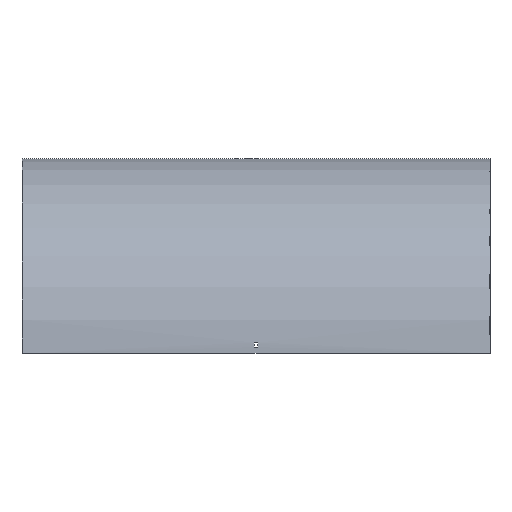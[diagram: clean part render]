
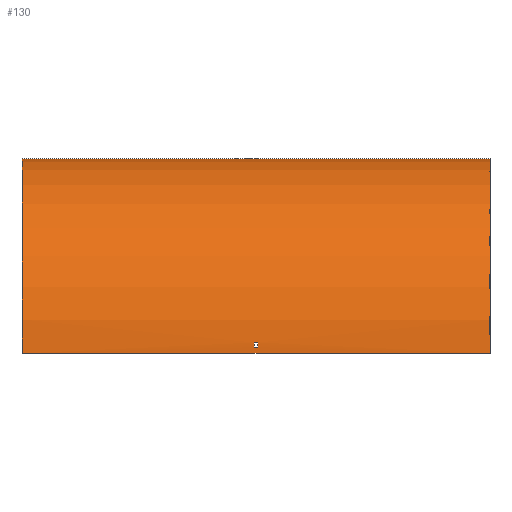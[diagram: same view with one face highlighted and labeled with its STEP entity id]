
A CAD part, top view. The second image highlights one B-rep face of the part: STEP entity #130.
In plain terms, the highlighted cylindrical face has radius 376.5 mm (diameter 753 mm), a partial arc.
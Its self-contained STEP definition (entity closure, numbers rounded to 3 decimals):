
#5 = VERTEX_POINT ( 'NONE', #152 ) ;
#7 = AXIS2_PLACEMENT_3D ( 'NONE', #172, #231, #122 ) ;
#11 = ORIENTED_EDGE ( 'NONE', *, *, #475, .T. ) ;
#19 = CARTESIAN_POINT ( 'NONE',  ( 451.5, -0.586, 21. ) ) ;
#21 = VECTOR ( 'NONE', #290, 1000. ) ;
#40 = VERTEX_POINT ( 'NONE', #214 ) ;
#46 = EDGE_CURVE ( 'NONE', #153, #5, #118, .T. ) ;
#51 = VERTEX_POINT ( 'NONE', #481 ) ;
#56 = VERTEX_POINT ( 'NONE', #582 ) ;
#62 = ORIENTED_EDGE ( 'NONE', *, *, #345, .F. ) ;
#66 = DIRECTION ( 'NONE',  ( 0., 1., 0. ) ) ;
#73 = FACE_OUTER_BOUND ( 'NONE', #159, .T. ) ;
#86 = DIRECTION ( 'NONE',  ( 1., 0., 0. ) ) ;
#87 = DIRECTION ( 'NONE',  ( -1., 0., 0. ) ) ;
#105 = CARTESIAN_POINT ( 'NONE',  ( -3.25, -0.586, 21. ) ) ;
#107 = ORIENTED_EDGE ( 'NONE', *, *, #168, .F. ) ;
#110 = DIRECTION ( 'NONE',  ( 0., 0., 1. ) ) ;
#113 = CARTESIAN_POINT ( 'NONE',  ( -3.25, -376.5, 0. ) ) ;
#118 = CIRCLE ( 'NONE', #306, 376.5 ) ;
#120 = EDGE_CURVE ( 'NONE', #522, #318, #546, .T. ) ;
#122 = DIRECTION ( 'NONE',  ( 0., 0., -1. ) ) ;
#124 = CIRCLE ( 'NONE', #508, 376.5 ) ;
#130 = ADVANCED_FACE ( 'NONE', ( #73, #394, #586 ), #307, .T. ) ;
#131 = VERTEX_POINT ( 'NONE', #171 ) ;
#132 = LINE ( 'NONE', #360, #557 ) ;
#146 = LINE ( 'NONE', #432, #21 ) ;
#152 = CARTESIAN_POINT ( 'NONE',  ( -3.25, -364.5, 376.309 ) ) ;
#153 = VERTEX_POINT ( 'NONE', #350 ) ;
#159 = EDGE_LOOP ( 'NONE', ( #382, #465, #346, #11 ) ) ;
#168 = EDGE_CURVE ( 'NONE', #587, #153, #534, .T. ) ;
#169 = LINE ( 'NONE', #211, #597 ) ;
#171 = CARTESIAN_POINT ( 'NONE',  ( 451.5, -376.5, 376.5 ) ) ;
#172 = CARTESIAN_POINT ( 'NONE',  ( -451.5, -376.5, 0. ) ) ;
#175 = EDGE_CURVE ( 'NONE', #235, #522, #222, .T. ) ;
#176 = CARTESIAN_POINT ( 'NONE',  ( 451.5, -376.5, 0. ) ) ;
#178 = CIRCLE ( 'NONE', #311, 376.5 ) ;
#203 = ORIENTED_EDGE ( 'NONE', *, *, #46, .F. ) ;
#205 = ORIENTED_EDGE ( 'NONE', *, *, #378, .T. ) ;
#211 = CARTESIAN_POINT ( 'NONE',  ( 451.5, -0.191, 12. ) ) ;
#214 = CARTESIAN_POINT ( 'NONE',  ( 451.5, 0., 0. ) ) ;
#216 = EDGE_CURVE ( 'NONE', #51, #356, #397, .T. ) ;
#221 = ORIENTED_EDGE ( 'NONE', *, *, #560, .F. ) ;
#222 = LINE ( 'NONE', #19, #456 ) ;
#231 = DIRECTION ( 'NONE',  ( 1., 0., 0. ) ) ;
#232 = VERTEX_POINT ( 'NONE', #314 ) ;
#235 = VERTEX_POINT ( 'NONE', #493 ) ;
#256 = CARTESIAN_POINT ( 'NONE',  ( 451.5, 0., 0. ) ) ;
#265 = EDGE_LOOP ( 'NONE', ( #203, #107, #62, #221 ) ) ;
#269 = DIRECTION ( 'NONE',  ( -1., 0., 0. ) ) ;
#273 = DIRECTION ( 'NONE',  ( 0., 0., -1. ) ) ;
#281 = AXIS2_PLACEMENT_3D ( 'NONE', #530, #348, #110 ) ;
#290 = DIRECTION ( 'NONE',  ( -1., 0., 0. ) ) ;
#297 = AXIS2_PLACEMENT_3D ( 'NONE', #492, #352, #401 ) ;
#303 = VECTOR ( 'NONE', #478, 1000. ) ;
#306 = AXIS2_PLACEMENT_3D ( 'NONE', #113, #313, #66 ) ;
#307 = CYLINDRICAL_SURFACE ( 'NONE', #281, 376.5 ) ;
#311 = AXIS2_PLACEMENT_3D ( 'NONE', #598, #594, #273 ) ;
#313 = DIRECTION ( 'NONE',  ( 1., 0., 0. ) ) ;
#314 = CARTESIAN_POINT ( 'NONE',  ( 3.25, -364.5, 376.309 ) ) ;
#318 = VERTEX_POINT ( 'NONE', #578 ) ;
#325 = CARTESIAN_POINT ( 'NONE',  ( -451.5, -376.5, 376.5 ) ) ;
#332 = CARTESIAN_POINT ( 'NONE',  ( 3.25, -355.5, 375.914 ) ) ;
#345 = EDGE_CURVE ( 'NONE', #232, #587, #124, .T. ) ;
#346 = ORIENTED_EDGE ( 'NONE', *, *, #580, .F. ) ;
#348 = DIRECTION ( 'NONE',  ( -1., 0., 0. ) ) ;
#349 = EDGE_CURVE ( 'NONE', #56, #235, #178, .T. ) ;
#350 = CARTESIAN_POINT ( 'NONE',  ( -3.25, -355.5, 375.914 ) ) ;
#352 = DIRECTION ( 'NONE',  ( -1., 0., 0. ) ) ;
#356 = VERTEX_POINT ( 'NONE', #325 ) ;
#360 = CARTESIAN_POINT ( 'NONE',  ( 451.5, -364.5, 376.309 ) ) ;
#364 = DIRECTION ( 'NONE',  ( 1., 0., 0. ) ) ;
#378 = EDGE_CURVE ( 'NONE', #318, #56, #169, .T. ) ;
#382 = ORIENTED_EDGE ( 'NONE', *, *, #216, .T. ) ;
#394 = FACE_BOUND ( 'NONE', #511, .T. ) ;
#397 = CIRCLE ( 'NONE', #7, 376.5 ) ;
#400 = AXIS2_PLACEMENT_3D ( 'NONE', #176, #505, #403 ) ;
#401 = DIRECTION ( 'NONE',  ( 0., 0., 1. ) ) ;
#403 = DIRECTION ( 'NONE',  ( 0., 0., -1. ) ) ;
#408 = ORIENTED_EDGE ( 'NONE', *, *, #349, .T. ) ;
#411 = CIRCLE ( 'NONE', #400, 376.5 ) ;
#420 = ORIENTED_EDGE ( 'NONE', *, *, #120, .T. ) ;
#432 = CARTESIAN_POINT ( 'NONE',  ( 451.5, -376.5, 376.5 ) ) ;
#454 = DIRECTION ( 'NONE',  ( -1., 0., 0. ) ) ;
#456 = VECTOR ( 'NONE', #87, 1000. ) ;
#465 = ORIENTED_EDGE ( 'NONE', *, *, #603, .F. ) ;
#475 = EDGE_CURVE ( 'NONE', #40, #51, #485, .T. ) ;
#478 = DIRECTION ( 'NONE',  ( -1., 0., 0. ) ) ;
#481 = CARTESIAN_POINT ( 'NONE',  ( -451.5, 0., 0. ) ) ;
#485 = LINE ( 'NONE', #256, #303 ) ;
#489 = CARTESIAN_POINT ( 'NONE',  ( 451.5, -355.5, 375.914 ) ) ;
#492 = CARTESIAN_POINT ( 'NONE',  ( -3.25, -376.5, 0. ) ) ;
#493 = CARTESIAN_POINT ( 'NONE',  ( 3.25, -0.586, 21. ) ) ;
#503 = DIRECTION ( 'NONE',  ( 0., 0., 1. ) ) ;
#505 = DIRECTION ( 'NONE',  ( 1., 0., 0. ) ) ;
#507 = VECTOR ( 'NONE', #269, 1000. ) ;
#508 = AXIS2_PLACEMENT_3D ( 'NONE', #604, #454, #503 ) ;
#511 = EDGE_LOOP ( 'NONE', ( #606, #420, #205, #408 ) ) ;
#522 = VERTEX_POINT ( 'NONE', #105 ) ;
#530 = CARTESIAN_POINT ( 'NONE',  ( 451.5, -376.5, 0. ) ) ;
#534 = LINE ( 'NONE', #489, #507 ) ;
#546 = CIRCLE ( 'NONE', #297, 376.5 ) ;
#557 = VECTOR ( 'NONE', #364, 1000. ) ;
#560 = EDGE_CURVE ( 'NONE', #5, #232, #132, .T. ) ;
#578 = CARTESIAN_POINT ( 'NONE',  ( -3.25, -0.191, 12. ) ) ;
#580 = EDGE_CURVE ( 'NONE', #40, #131, #411, .T. ) ;
#582 = CARTESIAN_POINT ( 'NONE',  ( 3.25, -0.191, 12. ) ) ;
#586 = FACE_BOUND ( 'NONE', #265, .T. ) ;
#587 = VERTEX_POINT ( 'NONE', #332 ) ;
#594 = DIRECTION ( 'NONE',  ( 1., 0., 0. ) ) ;
#597 = VECTOR ( 'NONE', #86, 1000. ) ;
#598 = CARTESIAN_POINT ( 'NONE',  ( 3.25, -376.5, 0. ) ) ;
#603 = EDGE_CURVE ( 'NONE', #131, #356, #146, .T. ) ;
#604 = CARTESIAN_POINT ( 'NONE',  ( 3.25, -376.5, 0. ) ) ;
#606 = ORIENTED_EDGE ( 'NONE', *, *, #175, .T. ) ;
